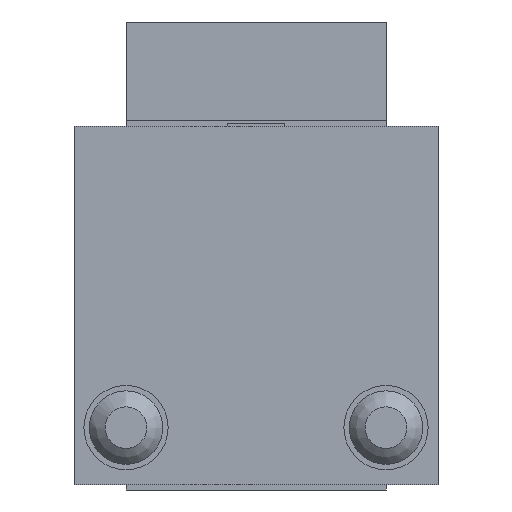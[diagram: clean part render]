
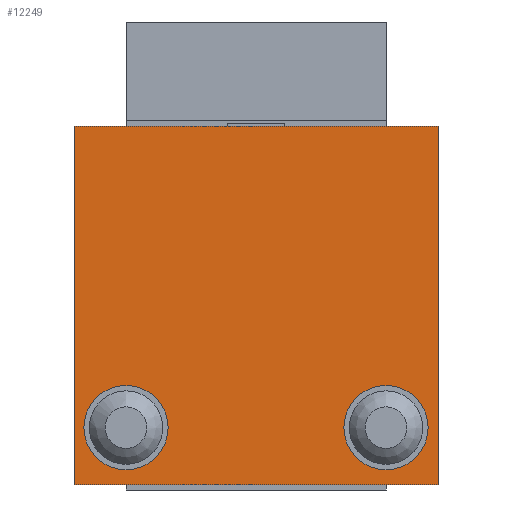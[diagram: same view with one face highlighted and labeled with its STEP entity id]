
A CAD part, left-side view. The second image highlights one B-rep face of the part: STEP entity #12249.
In plain terms, the highlighted planar face has unit normal (-1, 0, 0).
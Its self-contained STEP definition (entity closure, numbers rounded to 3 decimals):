
#214=FACE_BOUND('',#1774,.T.);
#215=FACE_BOUND('',#1775,.T.);
#347=CIRCLE('',#12962,8.1);
#355=CIRCLE('',#12974,8.1);
#1075=FACE_OUTER_BOUND('',#1773,.T.);
#1773=EDGE_LOOP('',(#8016,#8017,#8018,#8019));
#1774=EDGE_LOOP('',(#8020));
#1775=EDGE_LOOP('',(#8021));
#2594=LINE('',#18003,#3724);
#2614=LINE('',#18042,#3744);
#2615=LINE('',#18044,#3745);
#2616=LINE('',#18045,#3746);
#3724=VECTOR('',#14389,70.);
#3744=VECTOR('',#14429,69.);
#3745=VECTOR('',#14430,69.);
#3746=VECTOR('',#14431,70.);
#4838=VERTEX_POINT('',#17927);
#4846=VERTEX_POINT('',#17977);
#4857=VERTEX_POINT('',#18000);
#4858=VERTEX_POINT('',#18002);
#4867=VERTEX_POINT('',#18041);
#4868=VERTEX_POINT('',#18043);
#6046=EDGE_CURVE('',#4838,#4838,#347,.T.);
#6055=EDGE_CURVE('',#4846,#4846,#355,.T.);
#6066=EDGE_CURVE('',#4857,#4858,#2594,.T.);
#6086=EDGE_CURVE('',#4867,#4858,#2614,.T.);
#6087=EDGE_CURVE('',#4857,#4868,#2615,.T.);
#6088=EDGE_CURVE('',#4868,#4867,#2616,.T.);
#8016=ORIENTED_EDGE('',*,*,#6086,.T.);
#8017=ORIENTED_EDGE('',*,*,#6066,.F.);
#8018=ORIENTED_EDGE('',*,*,#6087,.T.);
#8019=ORIENTED_EDGE('',*,*,#6088,.T.);
#8020=ORIENTED_EDGE('',*,*,#6046,.T.);
#8021=ORIENTED_EDGE('',*,*,#6055,.T.);
#11121=PLANE('',#12986);
#12249=ADVANCED_FACE('',(#1075,#214,#215),#11121,.T.);
#12962=AXIS2_PLACEMENT_3D('',#17928,#14349,#14350);
#12974=AXIS2_PLACEMENT_3D('',#17978,#14373,#14374);
#12986=AXIS2_PLACEMENT_3D('',#18040,#14427,#14428);
#14349=DIRECTION('center_axis',(1.,0.,0.));
#14350=DIRECTION('ref_axis',(0.,1.,0.));
#14373=DIRECTION('center_axis',(1.,0.,0.));
#14374=DIRECTION('ref_axis',(0.,1.,0.));
#14389=DIRECTION('',(0.,-1.,0.));
#14427=DIRECTION('center_axis',(-1.,0.,0.));
#14428=DIRECTION('ref_axis',(0.,0.,-1.));
#14429=DIRECTION('',(0.,0.,1.));
#14430=DIRECTION('',(0.,0.,-1.));
#14431=DIRECTION('',(0.,-1.,0.));
#17927=CARTESIAN_POINT('',(-222.,33.1,10.));
#17928=CARTESIAN_POINT('Origin',(-222.,25.,10.));
#17977=CARTESIAN_POINT('',(-222.,-16.9,10.));
#17978=CARTESIAN_POINT('Origin',(-222.,-25.,10.));
#18000=CARTESIAN_POINT('',(-222.,35.,68.));
#18002=CARTESIAN_POINT('',(-222.,-35.,68.));
#18003=CARTESIAN_POINT('',(-222.,0.,68.));
#18040=CARTESIAN_POINT('Origin',(-222.,0.,-1.));
#18041=CARTESIAN_POINT('',(-222.,-35.,-1.));
#18042=CARTESIAN_POINT('',(-222.,-35.,68.));
#18043=CARTESIAN_POINT('',(-222.,35.,-1.));
#18044=CARTESIAN_POINT('',(-222.,35.,-1.));
#18045=CARTESIAN_POINT('',(-222.,0.,-1.));
